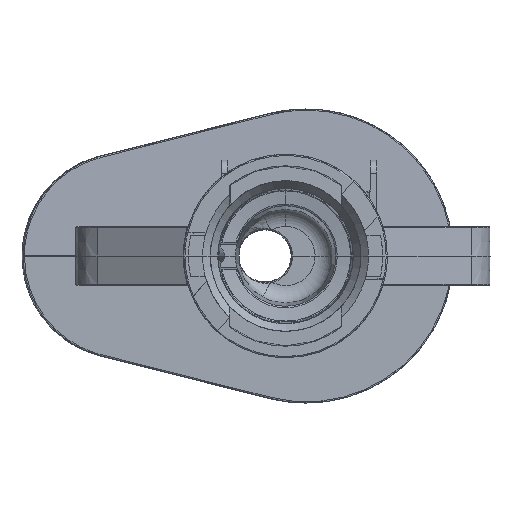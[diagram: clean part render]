
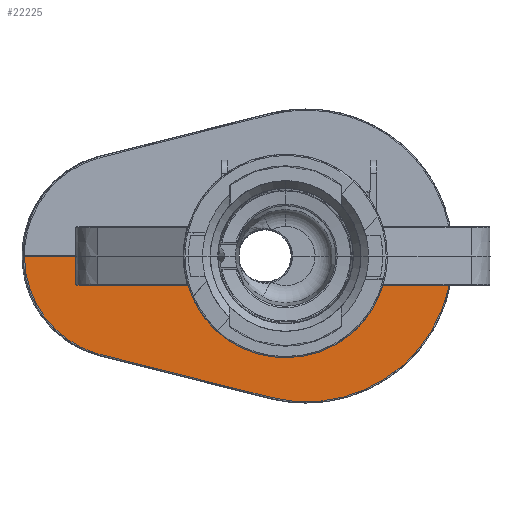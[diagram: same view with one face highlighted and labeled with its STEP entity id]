
A CAD part, left-side view. The second image highlights one B-rep face of the part: STEP entity #22225.
In plain terms, the highlighted planar face has unit normal (-0.998, -0.07, -0.009).
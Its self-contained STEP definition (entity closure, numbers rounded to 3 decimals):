
#147 = VERTEX_POINT ( 'NONE', #27540 ) ;
#676 = CARTESIAN_POINT ( 'NONE',  ( 79.895, 44.4, -0.002 ) ) ;
#815 =( BOUNDED_CURVE ( )  B_SPLINE_CURVE ( 3, ( #6464, #6275, #12353, #21178 ),
 .UNSPECIFIED., .F., .F. ) 
 B_SPLINE_CURVE_WITH_KNOTS ( ( 4, 4 ),
 ( 2.896, 4.712 ),
 .UNSPECIFIED. ) 
 CURVE ( )  GEOMETRIC_REPRESENTATION_ITEM ( )  RATIONAL_B_SPLINE_CURVE ( ( 1., 0.743, 0.743, 1. ) ) 
 REPRESENTATION_ITEM ( '' )  );
#986 = ORIENTED_EDGE ( 'NONE', *, *, #10414, .T. ) ;
#1546 = VECTOR ( 'NONE', #13501, 1000. ) ;
#1661 = LINE ( 'NONE', #35845, #9620 ) ;
#1950 = CARTESIAN_POINT ( 'NONE',  ( 81.163, 26.297, -0.266 ) ) ;
#2232 = PLANE ( 'NONE',  #24765 ) ;
#2417 = CARTESIAN_POINT ( 'NONE',  ( 82.596, 5.776, 0. ) ) ;
#3733 = ORIENTED_EDGE ( 'NONE', *, *, #34647, .T. ) ;
#3878 = CARTESIAN_POINT ( 'NONE',  ( 80.378, 39.343, -14.77 ) ) ;
#4371 = ORIENTED_EDGE ( 'NONE', *, *, #23294, .T. ) ;
#4604 = EDGE_CURVE ( 'NONE', #29911, #6276, #37073, .T. ) ;
#6108 = CARTESIAN_POINT ( 'NONE',  ( 82.208, 11.321, 0. ) ) ;
#6275 = CARTESIAN_POINT ( 'NONE',  ( 84.262, -14.509, -28.326 ) ) ;
#6276 = VERTEX_POINT ( 'NONE', #12769 ) ;
#6280 = EDGE_CURVE ( 'NONE', #6276, #20693, #33143, .T. ) ;
#6464 = CARTESIAN_POINT ( 'NONE',  ( 83.039, 2.457, -24.055 ) ) ;
#6641 = CARTESIAN_POINT ( 'NONE',  ( 79.895, 44.4, -0.002 ) ) ;
#8728 = EDGE_CURVE ( 'NONE', #11973, #26911, #815, .T. ) ;
#9415 = ORIENTED_EDGE ( 'NONE', *, *, #27069, .T. ) ;
#9620 = VECTOR ( 'NONE', #22634, 1000. ) ;
#9631 = VECTOR ( 'NONE', #38142, 1000. ) ;
#10414 = EDGE_CURVE ( 'NONE', #147, #11973, #1661, .T. ) ;
#11973 = VERTEX_POINT ( 'NONE', #16457 ) ;
#11993 = CARTESIAN_POINT ( 'NONE',  ( 81.162, 26.302, -0.178 ) ) ;
#12353 = CARTESIAN_POINT ( 'NONE',  ( 85.133, -28.311, -17.54 ) ) ;
#12769 = CARTESIAN_POINT ( 'NONE',  ( 81.161, 26.305, -0.002 ) ) ;
#13285 = CARTESIAN_POINT ( 'NONE',  ( 79.967, 44.406, -8.259 ) ) ;
#13501 = DIRECTION ( 'NONE',  ( -0.07, 0.998, 0. ) ) ;
#13588 =( BOUNDED_CURVE ( )  B_SPLINE_CURVE ( 3, ( #17866, #36251, #20622, #6108 ),
 .UNSPECIFIED., .F., .F. ) 
 B_SPLINE_CURVE_WITH_KNOTS ( ( 4, 4 ),
 ( 3.018, 6.158 ),
 .UNSPECIFIED. ) 
 CURVE ( )  GEOMETRIC_REPRESENTATION_ITEM ( )  RATIONAL_B_SPLINE_CURVE ( ( 1., 0.334, 0.334, 1. ) ) 
 REPRESENTATION_ITEM ( '' )  );
#14109 = CARTESIAN_POINT ( 'NONE',  ( 82.596, 5.776, -0.002 ) ) ;
#14209 = EDGE_CURVE ( 'NONE', #20693, #147, #32236, .T. ) ;
#15891 = CARTESIAN_POINT ( 'NONE',  ( 82.596, 5.776, -0.002 ) ) ;
#16457 = CARTESIAN_POINT ( 'NONE',  ( 83.039, 2.457, -24.055 ) ) ;
#16537 = VERTEX_POINT ( 'NONE', #16830 ) ;
#16675 = CARTESIAN_POINT ( 'NONE',  ( 81.163, 26.297, -0.266 ) ) ;
#16830 = CARTESIAN_POINT ( 'NONE',  ( 83.789, -11.279, -0.002 ) ) ;
#17691 = DIRECTION ( 'NONE',  ( -0.998, -0.07, -0.009 ) ) ;
#17866 = CARTESIAN_POINT ( 'NONE',  ( 83.789, -11.279, -0.002 ) ) ;
#19584 = VECTOR ( 'NONE', #23113, 1000. ) ;
#19979 = CARTESIAN_POINT ( 'NONE',  ( 81.766, 17.641, 0. ) ) ;
#20239 = ORIENTED_EDGE ( 'NONE', *, *, #24628, .T. ) ;
#20622 = CARTESIAN_POINT ( 'NONE',  ( 82.406, 11.316, -22.586 ) ) ;
#20693 = VERTEX_POINT ( 'NONE', #676 ) ;
#20921 = EDGE_LOOP ( 'NONE', ( #3733, #33757, #28648, #21750, #986, #32790, #9415, #20239, #4371 ) ) ;
#21178 = CARTESIAN_POINT ( 'NONE',  ( 84.98, -28.322, -0.002 ) ) ;
#21223 = CARTESIAN_POINT ( 'NONE',  ( 82.208, 11.321, 0. ) ) ;
#21750 = ORIENTED_EDGE ( 'NONE', *, *, #14209, .T. ) ;
#22225 = ADVANCED_FACE ( 'NONE', ( #35521 ), #2232, .T. ) ;
#22339 = CARTESIAN_POINT ( 'NONE',  ( 81.836, 17.661, -8.085 ) ) ;
#22634 = DIRECTION ( 'NONE',  ( 0.07, -0.967, -0.244 ) ) ;
#23113 = DIRECTION ( 'NONE',  ( -0.07, 0.998, 0. ) ) ;
#23173 = CARTESIAN_POINT ( 'NONE',  ( 81.163, 26.297, -0.266 ) ) ;
#23294 = EDGE_CURVE ( 'NONE', #33202, #23593, #32453, .T. ) ;
#23593 = VERTEX_POINT ( 'NONE', #31976 ) ;
#24628 = EDGE_CURVE ( 'NONE', #16537, #33202, #13588, .T. ) ;
#24765 = AXIS2_PLACEMENT_3D ( 'NONE', #2417, #17691, #34951 ) ;
#26195 = CARTESIAN_POINT ( 'NONE',  ( 82.596, 5.776, 0. ) ) ;
#26911 = VERTEX_POINT ( 'NONE', #31160 ) ;
#27069 = EDGE_CURVE ( 'NONE', #26911, #16537, #32305, .T. ) ;
#27540 = CARTESIAN_POINT ( 'NONE',  ( 80.954, 31.355, -16.781 ) ) ;
#28177 = CARTESIAN_POINT ( 'NONE',  ( 80.954, 31.355, -16.781 ) ) ;
#28648 = ORIENTED_EDGE ( 'NONE', *, *, #6280, .T. ) ;
#29911 = VERTEX_POINT ( 'NONE', #16675 ) ;
#31160 = CARTESIAN_POINT ( 'NONE',  ( 84.98, -28.322, -0.002 ) ) ;
#31976 = CARTESIAN_POINT ( 'NONE',  ( 81.766, 17.641, 0. ) ) ;
#32236 =( BOUNDED_CURVE ( )  B_SPLINE_CURVE ( 3, ( #6641, #13285, #3878, #28177 ),
 .UNSPECIFIED., .F., .F. ) 
 B_SPLINE_CURVE_WITH_KNOTS ( ( 4, 4 ),
 ( 1.571, 2.896 ),
 .UNSPECIFIED. ) 
 CURVE ( )  GEOMETRIC_REPRESENTATION_ITEM ( )  RATIONAL_B_SPLINE_CURVE ( ( 1., 0.859, 0.859, 1. ) ) 
 REPRESENTATION_ITEM ( '' )  );
#32305 = LINE ( 'NONE', #14109, #19584 ) ;
#32453 = LINE ( 'NONE', #26195, #9631 ) ;
#32790 = ORIENTED_EDGE ( 'NONE', *, *, #8728, .T. ) ;
#32951 = CARTESIAN_POINT ( 'NONE',  ( 81.161, 26.305, -0.09 ) ) ;
#33143 = LINE ( 'NONE', #15891, #1546 ) ;
#33202 = VERTEX_POINT ( 'NONE', #21223 ) ;
#33757 = ORIENTED_EDGE ( 'NONE', *, *, #4604, .T. ) ;
#34647 = EDGE_CURVE ( 'NONE', #23593, #29911, #37722, .T. ) ;
#34951 = DIRECTION ( 'NONE',  ( 0.07, -0.998, 0. ) ) ;
#35117 = CARTESIAN_POINT ( 'NONE',  ( 81.161, 26.305, -0.002 ) ) ;
#35521 = FACE_OUTER_BOUND ( 'NONE', #20921, .T. ) ;
#35845 = CARTESIAN_POINT ( 'NONE',  ( 82.404, 11.259, -21.839 ) ) ;
#36251 = CARTESIAN_POINT ( 'NONE',  ( 83.986, -11.27, -22.588 ) ) ;
#37073 =( BOUNDED_CURVE ( )  B_SPLINE_CURVE ( 3, ( #23173, #11993, #32951, #35117 ),
 .UNSPECIFIED., .F., .F. ) 
 B_SPLINE_CURVE_WITH_KNOTS ( ( 4, 4 ),
 ( 0., 0.062 ),
 .UNSPECIFIED. ) 
 CURVE ( )  GEOMETRIC_REPRESENTATION_ITEM ( )  RATIONAL_B_SPLINE_CURVE ( ( 1., 1., 1., 1. ) ) 
 REPRESENTATION_ITEM ( '' )  );
#37223 = CARTESIAN_POINT ( 'NONE',  ( 81.269, 25.802, -8.335 ) ) ;
#37722 =( BOUNDED_CURVE ( )  B_SPLINE_CURVE ( 3, ( #19979, #22339, #37223, #1950 ),
 .UNSPECIFIED., .F., .F. ) 
 B_SPLINE_CURVE_WITH_KNOTS ( ( 4, 4 ),
 ( 3.205, 6.283 ),
 .UNSPECIFIED. ) 
 CURVE ( )  GEOMETRIC_REPRESENTATION_ITEM ( )  RATIONAL_B_SPLINE_CURVE ( ( 1., 0.354, 0.354, 1. ) ) 
 REPRESENTATION_ITEM ( '' )  );
#38142 = DIRECTION ( 'NONE',  ( -0.07, 0.998, 0. ) ) ;
